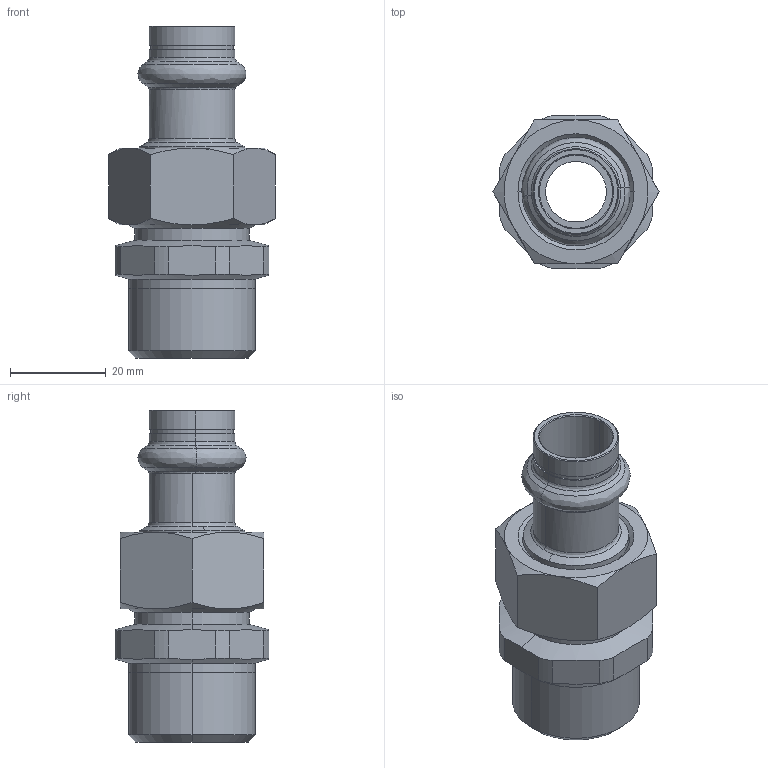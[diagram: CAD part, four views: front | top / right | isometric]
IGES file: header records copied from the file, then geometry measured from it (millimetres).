
Start section: Elysium IGES Interface
Global section: file name: F:\3d modellen sudo\S-Pr VP\SP6331GV\6331GVW1534.igs; native system: CoCreate Modeling 17.00A  17-Jun-2010; preprocessor: CoCreate IGES_3D V2.2; author: Unknown; organization: Unknown; date: 20130128.154202; units: millimetre
Bounding box: 34.64 x 32 x 69.2 mm (x, y, z)
Volume: 20386.4 mm3; surface area: 13702.8 mm2
Topology: 3 solids, 3 shells, 130 faces, 302 edges, 182 vertices
Faces by surface type: bspline 130
